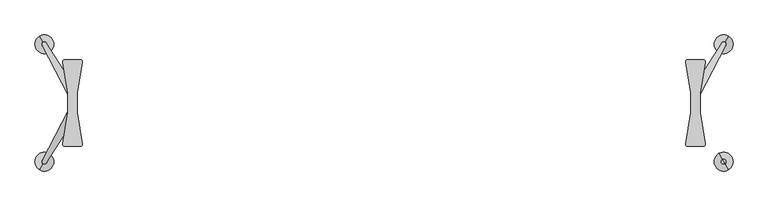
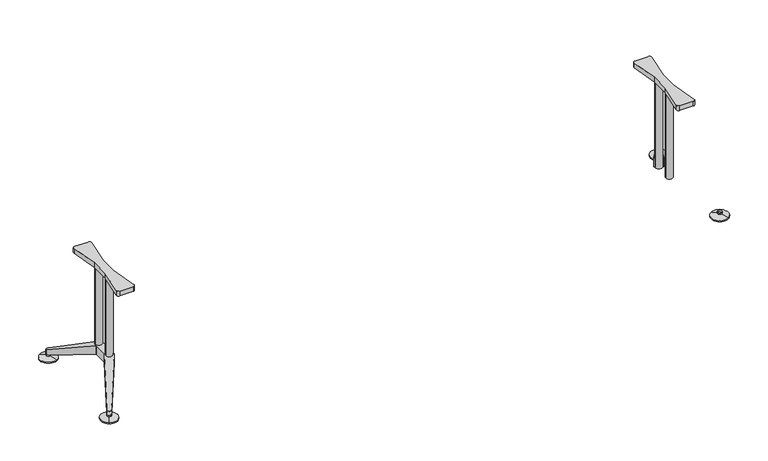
"""IFC4 building model written with IfcOpenShell, lengths in millimetres: furniture geometry, Furniture_Wilkhahn_620-46_Logon Table-Rectangle : Logon 620/46_3900L x 2300W x 730H."""

import ifcopenshell
import ifcopenshell.guid

model = None  # the IFC model being written
_history = None  # IfcOwnerHistory: only IFC2X3 demands one
_inside = {}  # id of a spatial element -> (the spatial element, [elements in it])
_under = {}  # id of a project, library or spatial element -> (it, [spatial elements below it])
_declared = {}  # id of a project -> (the project, [libraries it declares])
_typed = {}  # id of a type object -> (the type object, [elements of that type])
_made_of = {}  # id of a material, layer set ... -> (it, [elements and type objects made of it])


def new_model(schema):
    """Start an empty IFC model of exactly this schema.

    Asked for "IFC4X3", IfcOpenShell would pick the latest addendum, in which some entities
    have other attributes; the version numbers below select the first issue.
    IFC2X3 requires an IfcOwnerHistory on every rooted entity: one is made here for all.
    """
    global model, _history
    if schema == "IFC4X3":
        model = ifcopenshell.file(schema_version=(4, 3, 0, 0))
    else:
        model = ifcopenshell.file(schema=schema)
    _inside.clear()
    _under.clear()
    _declared.clear()
    _typed.clear()
    _made_of.clear()
    _history = None
    if model.schema == "IFC2X3":
        org = make("IfcOrganization", Name="unknown")
        user = make(
            "IfcPersonAndOrganization",
            ThePerson=make("IfcPerson", FamilyName="unknown"),
            TheOrganization=org,
        )
        app = make(
            "IfcApplication",
            ApplicationDeveloper=org,
            Version="unknown",
            ApplicationFullName="unknown",
            ApplicationIdentifier="unknown",
        )
        _history = make(
            "IfcOwnerHistory",
            OwningUser=user,
            OwningApplication=app,
            ChangeAction="ADDED",
            CreationDate=0,
        )
    return model


def make(cls, **values):
    """One entity of the class cls with the attributes given. An attribute that is None is left unset."""
    return model.create_entity(
        cls, **{name: value for name, value in values.items() if value is not None}
    )


def rooted(cls, **values):
    """An entity with a GlobalId (a new one), such as an element, a storey or a relation."""
    return make(cls, GlobalId=ifcopenshell.guid.new(), OwnerHistory=_history, **values)


def si_unit(unit_type, name, prefix=None):
    """IfcSIUnit, for example si_unit("LENGTHUNIT", "METRE", prefix="MILLI")."""
    return make("IfcSIUnit", UnitType=unit_type, Prefix=prefix, Name=name)


def assignment(units):
    """IfcUnitAssignment: the units of a project."""
    return None if units is None else make("IfcUnitAssignment", Units=units)


def point(xyz):
    """IfcCartesianPoint."""
    return None if xyz is None else make("IfcCartesianPoint", Coordinates=xyz)


def direction(xyz):
    """IfcDirection."""
    return None if xyz is None else make("IfcDirection", DirectionRatios=xyz)


def frame(location, z_axis=None, x_axis=None):
    """IfcAxis2Placement3D, a coordinate frame: its origin and axes. An axis left out is left unset."""
    return make(
        "IfcAxis2Placement3D",
        Location=point(location),
        Axis=direction(z_axis),
        RefDirection=direction(x_axis),
    )


def frame_2d(location, x_axis=None):
    """IfcAxis2Placement2D, a coordinate frame in the plane: its origin and x axis."""
    return make(
        "IfcAxis2Placement2D", Location=point(location), RefDirection=direction(x_axis)
    )


def origin():
    """The frame at (0, 0, 0) with its axes left unset."""
    return frame((0.0, 0.0, 0.0))


def place(relative_to, where):
    """IfcLocalPlacement: puts the frame where relative to a parent placement (None: the world)."""
    return make(
        "IfcLocalPlacement", PlacementRelTo=relative_to, RelativePlacement=where
    )


def context(
    kind, dimensions, precision=None, world=None, true_north=None, identifier=None
):
    """IfcGeometricRepresentationContext, for example the 3D "Model" context."""
    return make(
        "IfcGeometricRepresentationContext",
        ContextIdentifier=identifier,
        ContextType=kind,
        CoordinateSpaceDimension=dimensions,
        Precision=precision,
        WorldCoordinateSystem=world,
        TrueNorth=true_north,
    )


def project(units=None, contexts=None):
    """IfcProject with its units and contexts."""
    return rooted(
        "IfcProject",
        Name="project",
        RepresentationContexts=contexts,
        UnitsInContext=assignment(units),
    )


def spatial(cls, under=None, at=None, **own):
    """A site, building, storey or space (cls), placed at a placement, below another one or the project."""
    s = rooted(cls, ObjectPlacement=at, **own)
    if under is not None:
        _under.setdefault(under.id(), (under, []))[1].append(s)
    return s


def polyline(points):
    """IfcPolyline through the points."""
    return make("IfcPolyline", Points=[point(p) for p in points])


def circle_curve(where, radius):
    """IfcCircle in the frame where."""
    return make("IfcCircle", Position=where, Radius=radius)


def ellipse_curve(where, semi_axis1, semi_axis2):
    """IfcEllipse in the frame where."""
    return make(
        "IfcEllipse", Position=where, SemiAxis1=semi_axis1, SemiAxis2=semi_axis2
    )


def trimmed(basis, trim1, trim2, sense, master):
    """IfcTrimmedCurve: the piece of a basis curve between two trims."""
    return make(
        "IfcTrimmedCurve",
        BasisCurve=basis,
        Trim1=trim1,
        Trim2=trim2,
        SenseAgreement=sense,
        MasterRepresentation=master,
    )


def segment(curve, same_sense, transition):
    """IfcCompositeCurveSegment."""
    return make(
        "IfcCompositeCurveSegment",
        Transition=transition,
        SameSense=same_sense,
        ParentCurve=curve,
    )


def composite_curve(segments, self_intersect=None):
    """IfcCompositeCurve: segments joined end to end."""
    return make("IfcCompositeCurve", Segments=segments, SelfIntersect=self_intersect)


def outline(outer, holes=None, kind="AREA"):
    """IfcArbitraryClosedProfileDef: a profile drawn as a closed curve; with holes, ...WithVoids."""
    if holes is None:
        return make("IfcArbitraryClosedProfileDef", ProfileType=kind, OuterCurve=outer)
    return make(
        "IfcArbitraryProfileDefWithVoids",
        ProfileType=kind,
        OuterCurve=outer,
        InnerCurves=holes,
    )


def extrude(swept, where, along, depth):
    """IfcExtrudedAreaSolid: the profile swept, set in the frame where, extruded along a direction by depth."""
    return make(
        "IfcExtrudedAreaSolid",
        SweptArea=swept,
        Position=where,
        ExtrudedDirection=direction(along),
        Depth=depth,
    )


def shape(context_of_items, identifier, shape_type, items):
    """IfcShapeRepresentation: the items that make up one representation, for example the "Body"."""
    return make(
        "IfcShapeRepresentation",
        ContextOfItems=context_of_items,
        RepresentationIdentifier=identifier,
        RepresentationType=shape_type,
        Items=items,
    )


def source(mapping_origin, context_of_items, identifier, shape_type, items):
    """IfcRepresentationMap: a shape defined once, which mapped items show again and again."""
    return make(
        "IfcRepresentationMap",
        MappingOrigin=mapping_origin,
        MappedRepresentation=shape(context_of_items, identifier, shape_type, items),
    )


def transform(
    local_origin,
    x_axis=None,
    y_axis=None,
    z_axis=None,
    scale=None,
    scale2=None,
    scale3=None,
    uniform=True,
):
    """IfcCartesianTransformationOperator3D, or its non-uniform kind. x_axis, y_axis, z_axis: its Axis1, 2, 3."""
    if uniform:
        return make(
            "IfcCartesianTransformationOperator3D",
            Axis1=direction(x_axis),
            Axis2=direction(y_axis),
            LocalOrigin=point(local_origin),
            Scale=scale,
            Axis3=direction(z_axis),
        )
    return make(
        "IfcCartesianTransformationOperator3DnonUniform",
        Axis1=direction(x_axis),
        Axis2=direction(y_axis),
        LocalOrigin=point(local_origin),
        Scale=scale,
        Axis3=direction(z_axis),
        Scale2=scale2,
        Scale3=scale3,
    )


def mapped(mapping_source, mapping_target):
    """IfcMappedItem: shows the shape of a source again, moved by a transform."""
    return make(
        "IfcMappedItem", MappingSource=mapping_source, MappingTarget=mapping_target
    )


def made_of(thing, what):
    """Note that an element or type object is made of a material, layer set ...; save() writes the relation."""
    if what is not None:
        _made_of.setdefault(what.id(), (what, []))[1].append(thing)
    return thing


def element(
    cls,
    number,
    at=None,
    inside=None,
    cuts=None,
    type_object=None,
    material=None,
    context=None,
    identifier="Body",
    shape_type=None,
    held_by="IfcProductDefinitionShape",
    body=None,
    shapes=None,
    **own,
):
    """One element of the class cls, such as IfcWall. Its Tag is "e" and its number.

    at: its placement. inside: the storey or other place that contains it. cuts: it is an
    opening in that element (IfcRelVoidsElement). A single representation is given by context,
    identifier, shape_type and body (its items); several are given by shapes. held_by: the class
    of the entity that holds the representations. save() writes the other relations.
    """
    e = rooted(cls, Tag="e%d" % number, ObjectPlacement=at, **own)
    if body is not None:
        shapes = [shape(context, identifier, shape_type, body)]
    if shapes is not None:
        e.Representation = make(held_by, Representations=shapes)
    if inside is not None:
        _inside.setdefault(inside.id(), (inside, []))[1].append(e)
    if cuts is not None:
        rooted(
            "IfcRelVoidsElement", RelatingBuildingElement=cuts, RelatedOpeningElement=e
        )
    if type_object is not None:
        _typed.setdefault(type_object.id(), (type_object, []))[1].append(e)
    return made_of(e, material)


def aggregate(whole, parts):
    """IfcRelAggregates: a whole, such as a stair, and the parts it consists of."""
    return rooted("IfcRelAggregates", RelatingObject=whole, RelatedObjects=parts)


def save(model, path):
    """Write the relations noted so far, then the file.

    IfcRelAggregates (storeys below a building ...), IfcRelContainedInSpatialStructure (elements
    in a storey), IfcRelDefinesByType, IfcRelAssociatesMaterial and IfcRelDeclares: one each for
    every whole, place, type object, material and project.
    """
    for whole, parts in _under.values():
        aggregate(whole, parts)
    for where, things in _inside.values():
        rooted(
            "IfcRelContainedInSpatialStructure",
            RelatedElements=things,
            RelatingStructure=where,
        )
    for kind, things in _typed.values():
        rooted("IfcRelDefinesByType", RelatedObjects=things, RelatingType=kind)
    for what, things in _made_of.values():
        rooted("IfcRelAssociatesMaterial", RelatedObjects=things, RelatingMaterial=what)
    for by, libraries in _declared.values():
        rooted("IfcRelDeclares", RelatingContext=by, RelatedDefinitions=libraries)
    model.write(path)


def plane_surface(at):
    """IfcPlane: the flat surface through the origin of the frame at, square to its z axis."""
    return make("IfcPlane", Position=at)


def cylinder_surface(at, radius):
    """IfcCylindricalSurface: all points at the distance radius from the z axis of the frame at."""
    return make("IfcCylindricalSurface", Position=at, Radius=radius)


def revolved_surface(curve, axis_point, axis_direction):
    """IfcSurfaceOfRevolution: the curve turned about the line through axis_point along axis_direction."""
    return make(
        "IfcSurfaceOfRevolution",
        SweptCurve=make("IfcArbitraryOpenProfileDef", ProfileType="CURVE", Curve=curve),
        AxisPosition=make("IfcAxis1Placement", Location=point(axis_point), Axis=direction(axis_direction)),
    )


def advanced_brep(points, edges, surfaces, faces):
    """IfcAdvancedBrep: a solid bounded by faces that lie on surfaces and meet in shared edges.

    An edge is (start, end): straight between two places in points (the first is 0);
    or (start, end, curve); or (start, end, curve, False) where it runs against its curve.
    A face is (place in surfaces, loops), or (place, loops, False) where it looks against
    its surface's normal. A loop lists edges by number (the first is 1), with a minus sign
    where the edge is run from its end to its start. The first loop is the outer one.
    """
    corners = [point(p) for p in points]
    vertices = [make("IfcVertexPoint", VertexGeometry=c) for c in corners]
    made = []
    for start, end, *more in edges:
        made.append(
            make(
                "IfcEdgeCurve",
                EdgeStart=vertices[start],
                EdgeEnd=vertices[end],
                EdgeGeometry=more[0] if more else make("IfcPolyline", Points=[corners[start], corners[end]]),
                SameSense=more[1] if len(more) > 1 else True,
            )
        )
    hull = []
    for where, loops, *sense in faces:
        bounds = []
        for j, loop in enumerate(loops):
            ring = [make("IfcOrientedEdge", EdgeElement=made[abs(k) - 1], Orientation=k > 0) for k in loop]
            bounds.append(
                make(
                    "IfcFaceOuterBound" if j == 0 else "IfcFaceBound",
                    Bound=make("IfcEdgeLoop", EdgeList=ring),
                    Orientation=True,
                )
            )
        hull.append(make("IfcAdvancedFace", Bounds=bounds, FaceSurface=surfaces[where], SameSense=sense[0] if sense else True))
    return make("IfcAdvancedBrep", Outer=make("IfcClosedShell", CfsFaces=hull))


def furniture_664180d8(model_context):
    return source(origin(), model_context, "Body", "SolidModel", [
        advanced_brep(
        [(1798.762181, -238.3851898, 0.0), (1773.762181, -281.68646, 0.0), (1823.762181, -195.0839196, 0.0), (1773.762181, -281.68646, 6.0), (1823.762181, -195.0839196, 6.0), (1792.524362, -249.1894093, 17.0), (1805.0, -227.5809704, 17.0), (1792.524362, -249.1894093, 27.0), (1805.0, -227.5809704, 27.0), (1798.762181, -238.3851898, 27.0)],
        [
            (0, 1),
            (1, 2, circle_curve(frame((1798.762181, -238.3851898, 0.0), z_axis=(0.0, 0.0, -1.0), x_axis=(0.49999999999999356, 0.8660254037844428, 0.0)), 50.0)),
            (2, 0),
            (2, 1, circle_curve(frame((1798.762181, -238.3851898, 0.0), z_axis=(0.0, 0.0, -1.0), x_axis=(0.49999999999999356, 0.8660254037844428, 0.0)), 50.0)),
            (1, 3),
            (3, 4, circle_curve(frame((1798.762181, -238.3851898, 6.0), z_axis=(0.0, 0.0, -1.0), x_axis=(0.49999999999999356, 0.8660254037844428, 0.0)), 50.0)),
            (4, 2),
            (4, 3, circle_curve(frame((1798.762181, -238.3851898, 6.0), z_axis=(0.0, 0.0, -1.0), x_axis=(0.49999999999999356, 0.8660254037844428, 0.0)), 50.0)),
            (3, 5),
            (5, 6, circle_curve(frame((1798.762181, -238.3851898, 17.0), z_axis=(0.0, 0.0, -1.0), x_axis=(0.49999999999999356, 0.8660254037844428, 0.0)), 12.475638)),
            (6, 4),
            (6, 5, circle_curve(frame((1798.762181, -238.3851898, 17.0), z_axis=(0.0, 0.0, -1.0), x_axis=(0.49999999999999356, 0.8660254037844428, 0.0)), 12.475638)),
            (5, 7),
            (7, 8, circle_curve(frame((1798.762181, -238.3851898, 27.0), z_axis=(0.0, 0.0, -1.0), x_axis=(0.49999999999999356, 0.8660254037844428, 0.0)), 12.475638)),
            (8, 6),
            (8, 7, circle_curve(frame((1798.762181, -238.3851898, 27.0), z_axis=(0.0, 0.0, -1.0), x_axis=(0.49999999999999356, 0.8660254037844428, 0.0)), 12.475638)),
            (7, 9),
            (9, 8),
        ],
        [
            plane_surface(frame((1798.762181, -238.3851898, 0.0), z_axis=(0.0, 0.0, -1.0), x_axis=(0.49999999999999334, 0.8660254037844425, 0.0))),
            cylinder_surface(frame((1798.762181, -238.3851898, 27.0), z_axis=(0.0, 0.0, -1.0), x_axis=(0.49999999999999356, 0.8660254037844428, 0.0)), 50.0),
            revolved_surface(polyline([(1805.0, -227.5809704, 17.0), (1823.762181, -195.0839196, 6.0)]), (1798.762181, -238.3851898, 27.0), (0.0, 0.0, -1.0)),
            cylinder_surface(frame((1798.762181, -238.3851898, 27.0), z_axis=(0.0, 0.0, -1.0), x_axis=(0.49999999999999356, 0.8660254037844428, 0.0)), 12.475638),
            plane_surface(frame((1798.762181, -238.3851898, 27.0), z_axis=(0.0, 0.0, 1.0), x_axis=(0.49999999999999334, 0.8660254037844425, 0.0))),
        ],
        [
            (0, [[1, 2, 3]]),
            (0, [[-3, 4, -1]]),
            (1, [[5, 6, 7, -2]]),
            (1, [[-7, 8, -5, -4]]),
            (2, [[9, 10, 11, -6]]),
            (2, [[-11, 12, -9, -8]]),
            (3, [[13, 14, 15, -10]]),
            (3, [[-15, 16, -13, -12]]),
            (4, [[17, 18, -14]]),
            (4, [[-18, -17, -16]]),
        ],
    ),
        advanced_brep(
        [(1773.762181, -816.4112311, 0.0), (1798.762181, -859.7125013, 0.0), (1823.762181, -903.0137715, 0.0), (1773.762181, -816.4112311, 6.0), (1823.762181, -903.0137715, 6.0), (1792.524362, -848.9082819, 17.0), (1805.0, -870.5167207, 17.0), (1792.524362, -848.9082819, 27.0), (1805.0, -870.5167207, 27.0), (1798.762181, -859.7125013, 27.0)],
        [
            (0, 1),
            (1, 2),
            (2, 0, circle_curve(frame((1798.762181, -859.7125013, 0.0), z_axis=(0.0, 0.0, -1.0), x_axis=(0.4999999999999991, -0.8660254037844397, 0.0)), 50.0)),
            (0, 2, circle_curve(frame((1798.762181, -859.7125013, 0.0), z_axis=(0.0, 0.0, -1.0), x_axis=(0.4999999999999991, -0.8660254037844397, 0.0)), 50.0)),
            (3, 0),
            (2, 4),
            (4, 3, circle_curve(frame((1798.762181, -859.7125013, 6.0), z_axis=(0.0, 0.0, -1.0), x_axis=(0.4999999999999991, -0.8660254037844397, 0.0)), 50.0)),
            (3, 4, circle_curve(frame((1798.762181, -859.7125013, 6.0), z_axis=(0.0, 0.0, -1.0), x_axis=(0.4999999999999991, -0.8660254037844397, 0.0)), 50.0)),
            (5, 3),
            (4, 6),
            (6, 5, circle_curve(frame((1798.762181, -859.7125013, 17.0), z_axis=(0.0, 0.0, -1.0), x_axis=(0.4999999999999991, -0.8660254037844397, 0.0)), 12.475638)),
            (5, 6, circle_curve(frame((1798.762181, -859.7125013, 17.0), z_axis=(0.0, 0.0, -1.0), x_axis=(0.4999999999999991, -0.8660254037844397, 0.0)), 12.475638)),
            (7, 5),
            (6, 8),
            (8, 7, circle_curve(frame((1798.762181, -859.7125013, 27.0), z_axis=(0.0, 0.0, -1.0), x_axis=(0.4999999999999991, -0.8660254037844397, 0.0)), 12.475638)),
            (7, 8, circle_curve(frame((1798.762181, -859.7125013, 27.0), z_axis=(0.0, 0.0, -1.0), x_axis=(0.4999999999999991, -0.8660254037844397, 0.0)), 12.475638)),
            (9, 7),
            (8, 9),
        ],
        [
            plane_surface(frame((1798.762181, -859.7125013, 0.0), z_axis=(0.0, 0.0, -1.0), x_axis=(0.4999999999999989, -0.8660254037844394, 0.0))),
            cylinder_surface(frame((1798.762181, -859.7125013, 27.0), z_axis=(0.0, 0.0, 1.0), x_axis=(0.4999999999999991, -0.8660254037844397, 0.0)), 50.0),
            revolved_surface(polyline([(1823.762181, -903.0137715, 6.0), (1805.0, -870.5167207, 17.0)]), (1798.762181, -859.7125013, 27.0), (0.0, 0.0, 1.0)),
            cylinder_surface(frame((1798.762181, -859.7125013, 27.0), z_axis=(0.0, 0.0, 1.0), x_axis=(0.4999999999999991, -0.8660254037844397, 0.0)), 12.475638),
            plane_surface(frame((1798.762181, -859.7125013, 27.0), z_axis=(0.0, 0.0, 1.0), x_axis=(0.4999999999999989, -0.8660254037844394, 0.0))),
        ],
        [
            (0, [[1, 2, 3]]),
            (0, [[-2, -1, 4]]),
            (1, [[5, -3, 6, 7]]),
            (1, [[-6, -4, -5, 8]]),
            (2, [[9, -7, 10, 11]]),
            (2, [[-10, -8, -9, 12]]),
            (3, [[13, -11, 14, 15]]),
            (3, [[-14, -12, -13, 16]]),
            (4, [[17, -15, 18]]),
            (4, [[-18, -16, -17]]),
        ],
    ),
        extrude(outline(composite_curve([segment(polyline([(1675.0, -496.0488456), (1675.0, -602.0488456), (1701.7160071, -765.1086133)]), True, "CONTINUOUS"), segment(trimmed(circle_curve(frame_2d((1689.8739001, -767.0488456)), 12.0), [point((1701.7160071, -765.1086133))], [point((1689.8739001, -779.0488456))], False, "CARTESIAN"), True, "CONTINUOUS"), segment(polyline([(1689.8739001, -779.0488456), (1610.1260999, -779.0488456)]), True, "CONTINUOUS"), segment(trimmed(circle_curve(frame_2d((1610.1260999, -767.0488456)), 12.0), [point((1610.1260999, -779.0488456))], [point((1598.2839929, -765.1086133))], False, "CARTESIAN"), True, "CONTINUOUS"), segment(polyline([(1598.2839929, -765.1086133), (1625.0, -602.0488456), (1625.0, -496.0488456), (1598.2839929, -332.9890778)]), True, "CONTINUOUS"), segment(trimmed(circle_curve(frame_2d((1610.1260999, -331.0488456)), 12.0), [point((1598.2839929, -332.9890778))], [point((1610.1260999, -319.0488456))], False, "CARTESIAN"), True, "CONTINUOUS"), segment(polyline([(1610.1260999, -319.0488456), (1689.8739001, -319.0488456)]), True, "CONTINUOUS"), segment(trimmed(circle_curve(frame_2d((1689.8739001, -331.0488456)), 12.0), [point((1689.8739001, -319.0488456))], [point((1701.7160071, -332.9890778))], False, "CARTESIAN"), True, "CONTINUOUS"), segment(polyline([(1701.7160071, -332.9890778), (1675.0, -496.0488456)]), True, "CONTINUOUS")], self_intersect=False)), frame((0.0, 0.0, 675.0), z_axis=(0.0, 0.0, 1.0), x_axis=(1.0, 0.0, 0.0)), (0.0, 0.0, 1.0), 29.0),
        advanced_brep(
        [(1809.8189769, -244.1634947, 56.1717347), (1671.6506351, -508.5488456, 195.0), (1671.6506351, -508.5488456, 140.0), (1803.7925387, -255.6950942, 27.0), (1809.8189769, -244.1634947, 27.0), (1788.2296242, -231.6988761, 27.0), (1781.2561852, -242.6837244, 27.0), (1628.3493649, -483.5488456, 140.0), (1628.3493649, -483.5488456, 195.0), (1788.2296242, -231.6988761, 56.1717347), (1805.0, -227.5809704, 50.6048844), (1805.0, -227.5809704, 27.0)],
        [
            (0, 1),
            (1, 2),
            (2, 3),
            (3, 4),
            (4, 0),
            (5, 6),
            (6, 7),
            (7, 8),
            (8, 9),
            (9, 5),
            (0, 10, ellipse_curve(frame((1798.762181, -238.3851898, 56.4159205), z_axis=(0.21111665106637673, 0.36566476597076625, 0.9064871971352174), x_axis=(0.453243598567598, 0.785040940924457, -0.4222333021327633)), 13.7626191, 12.475638)),
            (10, 9, ellipse_curve(frame((1798.762181, -238.3851898, 56.4159205), z_axis=(0.21111665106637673, 0.36566476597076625, 0.9064871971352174), x_axis=(0.453243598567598, 0.785040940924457, -0.4222333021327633)), 13.7626191, 12.475638)),
            (8, 1),
            (5, 11, circle_curve(frame((1798.762181, -238.3851898, 27.0), z_axis=(0.0, 0.0, -1.0), x_axis=(0.8660254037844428, -0.49999999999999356, 0.0)), 12.475638)),
            (11, 4, circle_curve(frame((1798.762181, -238.3851898, 27.0), z_axis=(0.0, 0.0, -1.0), x_axis=(0.8660254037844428, -0.49999999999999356, 0.0)), 12.475638)),
            (3, 6),
            (2, 7),
        ],
        [
            plane_surface(frame((1671.6506351, -508.5488456, 195.0), z_axis=(0.8862709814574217, -0.46316708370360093, 0.0), x_axis=(0.0, 0.0, -1.0))),
            plane_surface(frame((1788.2296242, -231.6988761, 195.0), z_axis=(-0.844249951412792, 0.5359496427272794, 0.0), x_axis=(0.0, 0.0, -1.0))),
            plane_surface(frame((1671.6506351, -508.5488456, 195.0), z_axis=(0.21111665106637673, 0.36566476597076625, 0.9064871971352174), x_axis=(-0.8660254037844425, 0.49999999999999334, 0.0))),
            plane_surface(frame((1826.6506351, -240.0809704, 27.0), z_axis=(0.0, 0.0, -1.0), x_axis=(-0.8660254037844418, 0.4999999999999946, 0.0))),
            plane_surface(frame((1814.1749971, -261.6894093, 27.0), z_axis=(-0.1842613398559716, -0.3191500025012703, -0.9296187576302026), x_axis=(-0.8660254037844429, 0.49999999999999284, 0.0))),
            cylinder_surface(frame((1798.762181, -238.3851898, 0.0), z_axis=(0.0, 0.0, -1.0), x_axis=(0.8660254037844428, -0.49999999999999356, 0.0)), 12.475638),
            plane_surface(frame((1671.6506351, -508.5488456, 140.0), z_axis=(-0.4999999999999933, -0.8660254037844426, 0.0), x_axis=(-0.8660254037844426, 0.4999999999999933, 0.0))),
        ],
        [
            (0, [[1, 2, 3, 4, 5]]),
            (1, [[6, 7, 8, 9, 10]]),
            (2, [[-1, 11, 12, -9, 13]]),
            (3, [[-6, 14, 15, -4, 16]]),
            (4, [[-7, -16, -3, 17]]),
            (5, [[-12, -11, -5, -15, -14, -10]]),
            (6, [[-8, -17, -2, -13]]),
        ],
    ),
        extrude(outline(composite_curve([segment(trimmed(circle_curve(frame_2d((1650.0, -496.0488456)), 20.0), [point((1630.0, -496.0488456))], [point((1670.0, -496.0488456))], False, "CARTESIAN"), True, "CONTINUOUS"), segment(trimmed(circle_curve(frame_2d((1650.0, -496.0488456)), 20.0), [point((1670.0, -496.0488456))], [point((1630.0, -496.0488456))], False, "CARTESIAN"), True, "CONTINUOUS")], self_intersect=False)), frame((0.0, 0.0, 140.0), z_axis=(0.0, 0.0, 1.0), x_axis=(1.0, 0.0, 0.0)), (0.0, 0.0, 1.0), 535.0),
        extrude(outline(composite_curve([segment(trimmed(circle_curve(frame_2d((1650.0, -602.0488456)), 20.0), [point((1630.0, -602.0488456))], [point((1670.0, -602.0488456))], False, "CARTESIAN"), True, "CONTINUOUS"), segment(trimmed(circle_curve(frame_2d((1650.0, -602.0488456)), 20.0), [point((1670.0, -602.0488456))], [point((1630.0, -602.0488456))], False, "CARTESIAN"), True, "CONTINUOUS")], self_intersect=False)), frame((0.0, 0.0, 140.0), z_axis=(0.0, 0.0, 1.0), x_axis=(1.0, 0.0, 0.0)), (0.0, 0.0, 1.0), 535.0),
        extrude(outline(polyline([(-1671.6506351, -589.5488456), (-1671.6506351, -508.5488456), (-1628.3493649, -483.5488456), (-1628.3493649, -614.5488456), (-1671.6506351, -589.5488456)])), frame((0.0, 0.0, 140.0), z_axis=(0.0, 0.0, 1.0), x_axis=(1.0, 0.0, 0.0)), (0.0, 0.0, 1.0), 55.0),
        advanced_brep(
        [(-1628.3493649, -614.5488456, 195.0), (-1671.6506351, -589.5488456, 195.0), (-1809.8189769, -853.9341964, 56.1717347), (-1805.0, -870.5167207, 50.6048844), (-1788.2296242, -866.398815, 56.1717347), (-1803.7925387, -842.402597, 27.0), (-1781.2561852, -855.4139667, 27.0), (-1788.2296242, -866.398815, 27.0), (-1805.0, -870.5167207, 27.0), (-1809.8189769, -853.9341964, 27.0), (-1671.6506351, -589.5488456, 140.0), (-1628.3493649, -614.5488456, 140.0)],
        [
            (0, 1),
            (1, 2),
            (2, 3, ellipse_curve(frame((-1798.762181, -859.7125013, 56.4159205), z_axis=(-0.21111665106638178, -0.36566476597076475, 0.906487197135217), x_axis=(-0.45324359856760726, -0.7850409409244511, -0.4222333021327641)), 13.7626191, 12.475638)),
            (3, 4, ellipse_curve(frame((-1798.762181, -859.7125013, 56.4159205), z_axis=(-0.21111665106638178, -0.36566476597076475, 0.906487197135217), x_axis=(-0.45324359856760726, -0.7850409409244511, -0.4222333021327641)), 13.7626191, 12.475638)),
            (4, 0),
            (5, 6),
            (6, 7),
            (7, 8, circle_curve(frame((-1798.762181, -859.7125013, 27.0), z_axis=(0.0, 0.0, -1.0), x_axis=(-0.8660254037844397, 0.4999999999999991, 0.0)), 12.475638)),
            (8, 9, circle_curve(frame((-1798.762181, -859.7125013, 27.0), z_axis=(0.0, 0.0, -1.0), x_axis=(-0.8660254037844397, 0.4999999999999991, 0.0)), 12.475638)),
            (9, 5),
            (10, 11),
            (11, 6),
            (5, 10),
            (0, 11),
            (10, 1),
            (9, 2),
            (4, 7),
        ],
        [
            plane_surface(frame((-1826.6506351, -858.0167207, 50.6048844), z_axis=(-0.21111665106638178, -0.36566476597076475, 0.906487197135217), x_axis=(0.8660254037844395, -0.49999999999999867, 0.0))),
            plane_surface(frame((-1814.1749971, -836.4082819, 27.0), z_axis=(0.0, 0.0, -1.0), x_axis=(0.8660254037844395, -0.49999999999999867, 0.0))),
            plane_surface(frame((-1671.6506351, -589.5488456, 140.0), z_axis=(0.18426133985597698, 0.3191500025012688, -0.9296187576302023), x_axis=(0.866025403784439, -0.4999999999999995, 0.0))),
            plane_surface(frame((-1671.6506351, -589.5488456, 195.0), z_axis=(0.4999999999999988, 0.8660254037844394, 0.0), x_axis=(0.8660254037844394, -0.4999999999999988, 0.0))),
            plane_surface(frame((-1809.8189769, -853.9341964, 195.0), z_axis=(-0.8862709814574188, 0.4631670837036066, 0.0), x_axis=(0.0, 0.0, -1.0))),
            plane_surface(frame((-1628.3493649, -614.5488456, 195.0), z_axis=(0.8442499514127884, -0.5359496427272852, 0.0), x_axis=(0.0, 0.0, -1.0))),
            cylinder_surface(frame((-1798.762181, -859.7125013, 0.0), z_axis=(0.0, 0.0, -1.0), x_axis=(-0.8660254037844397, 0.4999999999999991, 0.0)), 12.475638),
        ],
        [
            (0, [[1, 2, 3, 4, 5]]),
            (1, [[6, 7, 8, 9, 10]]),
            (2, [[11, 12, -6, 13]]),
            (3, [[-1, 14, -11, 15]]),
            (4, [[16, -2, -15, -13, -10]]),
            (5, [[17, -7, -12, -14, -5]]),
            (6, [[-16, -9, -8, -17, -4, -3]]),
        ],
    ),
        advanced_brep(
        [(-1798.762181, -238.3851898, 0.0), (-1823.762181, -195.0839196, 0.0), (-1773.762181, -281.68646, 0.0), (-1823.762181, -195.0839196, 6.0), (-1773.762181, -281.68646, 6.0), (-1805.0, -227.5809704, 17.0), (-1792.524362, -249.1894093, 17.0), (-1805.0, -227.5809704, 27.0), (-1792.524362, -249.1894093, 27.0), (-1798.762181, -238.3851898, 27.0)],
        [
            (0, 1),
            (1, 2, circle_curve(frame((-1798.762181, -238.3851898, 0.0), z_axis=(0.0, 0.0, -1.0), x_axis=(-0.49999999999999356, 0.8660254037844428, 0.0)), 50.0)),
            (2, 0),
            (2, 1, circle_curve(frame((-1798.762181, -238.3851898, 0.0), z_axis=(0.0, 0.0, -1.0), x_axis=(-0.49999999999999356, 0.8660254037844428, 0.0)), 50.0)),
            (1, 3),
            (3, 4, circle_curve(frame((-1798.762181, -238.3851898, 6.0), z_axis=(0.0, 0.0, -1.0), x_axis=(-0.49999999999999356, 0.8660254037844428, 0.0)), 50.0)),
            (4, 2),
            (4, 3, circle_curve(frame((-1798.762181, -238.3851898, 6.0), z_axis=(0.0, 0.0, -1.0), x_axis=(-0.49999999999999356, 0.8660254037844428, 0.0)), 50.0)),
            (3, 5),
            (5, 6, circle_curve(frame((-1798.762181, -238.3851898, 17.0), z_axis=(0.0, 0.0, -1.0), x_axis=(-0.49999999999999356, 0.8660254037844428, 0.0)), 12.475638)),
            (6, 4),
            (6, 5, circle_curve(frame((-1798.762181, -238.3851898, 17.0), z_axis=(0.0, 0.0, -1.0), x_axis=(-0.49999999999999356, 0.8660254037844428, 0.0)), 12.475638)),
            (5, 7),
            (7, 8, circle_curve(frame((-1798.762181, -238.3851898, 27.0), z_axis=(0.0, 0.0, -1.0), x_axis=(-0.49999999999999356, 0.8660254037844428, 0.0)), 12.475638)),
            (8, 6),
            (8, 7, circle_curve(frame((-1798.762181, -238.3851898, 27.0), z_axis=(0.0, 0.0, -1.0), x_axis=(-0.49999999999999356, 0.8660254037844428, 0.0)), 12.475638)),
            (7, 9),
            (9, 8),
        ],
        [
            plane_surface(frame((-1798.762181, -238.3851898, 0.0), z_axis=(0.0, 0.0, -1.0), x_axis=(-0.49999999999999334, 0.8660254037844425, 0.0))),
            cylinder_surface(frame((-1798.762181, -238.3851898, 27.0), z_axis=(0.0, 0.0, -1.0), x_axis=(-0.49999999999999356, 0.8660254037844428, 0.0)), 50.0),
            revolved_surface(polyline([(-1805.0, -227.5809704, 17.0), (-1823.762181, -195.0839196, 6.0)]), (-1798.762181, -238.3851898, 27.0), (0.0, 0.0, -1.0)),
            cylinder_surface(frame((-1798.762181, -238.3851898, 27.0), z_axis=(0.0, 0.0, -1.0), x_axis=(-0.49999999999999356, 0.8660254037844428, 0.0)), 12.475638),
            plane_surface(frame((-1798.762181, -238.3851898, 27.0), z_axis=(0.0, 0.0, 1.0), x_axis=(-0.49999999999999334, 0.8660254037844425, 0.0))),
        ],
        [
            (0, [[1, 2, 3]]),
            (0, [[-3, 4, -1]]),
            (1, [[-2, 5, 6, 7]]),
            (1, [[-4, -7, 8, -5]]),
            (2, [[-6, 9, 10, 11]]),
            (2, [[-8, -11, 12, -9]]),
            (3, [[-10, 13, 14, 15]]),
            (3, [[-12, -15, 16, -13]]),
            (4, [[-14, 17, 18]]),
            (4, [[-16, -18, -17]]),
        ],
    ),
        advanced_brep(
        [(-1773.762181, -816.4112311, 0.0), (-1823.762181, -903.0137715, 0.0), (-1798.762181, -859.7125013, 0.0), (-1773.762181, -816.4112311, 6.0), (-1823.762181, -903.0137715, 6.0), (-1792.524362, -848.9082819, 17.0), (-1805.0, -870.5167207, 17.0), (-1792.524362, -848.9082819, 27.0), (-1805.0, -870.5167207, 27.0), (-1798.762181, -859.7125013, 27.0)],
        [
            (0, 1, circle_curve(frame((-1798.762181, -859.7125013, 0.0), z_axis=(0.0, 0.0, -1.0), x_axis=(-0.4999999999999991, -0.8660254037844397, 0.0)), 50.0)),
            (1, 2),
            (2, 0),
            (1, 0, circle_curve(frame((-1798.762181, -859.7125013, 0.0), z_axis=(0.0, 0.0, -1.0), x_axis=(-0.4999999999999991, -0.8660254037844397, 0.0)), 50.0)),
            (3, 4, circle_curve(frame((-1798.762181, -859.7125013, 6.0), z_axis=(0.0, 0.0, -1.0), x_axis=(-0.4999999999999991, -0.8660254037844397, 0.0)), 50.0)),
            (4, 1),
            (0, 3),
            (4, 3, circle_curve(frame((-1798.762181, -859.7125013, 6.0), z_axis=(0.0, 0.0, -1.0), x_axis=(-0.4999999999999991, -0.8660254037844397, 0.0)), 50.0)),
            (5, 6, circle_curve(frame((-1798.762181, -859.7125013, 17.0), z_axis=(0.0, 0.0, -1.0), x_axis=(-0.4999999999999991, -0.8660254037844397, 0.0)), 12.475638)),
            (6, 4),
            (3, 5),
            (6, 5, circle_curve(frame((-1798.762181, -859.7125013, 17.0), z_axis=(0.0, 0.0, -1.0), x_axis=(-0.4999999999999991, -0.8660254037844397, 0.0)), 12.475638)),
            (7, 8, circle_curve(frame((-1798.762181, -859.7125013, 27.0), z_axis=(0.0, 0.0, -1.0), x_axis=(-0.4999999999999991, -0.8660254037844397, 0.0)), 12.475638)),
            (8, 6),
            (5, 7),
            (8, 7, circle_curve(frame((-1798.762181, -859.7125013, 27.0), z_axis=(0.0, 0.0, -1.0), x_axis=(-0.4999999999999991, -0.8660254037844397, 0.0)), 12.475638)),
            (9, 8),
            (7, 9),
        ],
        [
            plane_surface(frame((-1798.762181, -859.7125013, 0.0), z_axis=(0.0, 0.0, -1.0), x_axis=(-0.4999999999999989, -0.8660254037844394, 0.0))),
            cylinder_surface(frame((-1798.762181, -859.7125013, 27.0), z_axis=(0.0, 0.0, 1.0), x_axis=(-0.4999999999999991, -0.8660254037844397, 0.0)), 50.0),
            revolved_surface(polyline([(-1823.762181, -903.0137715, 6.0), (-1805.0, -870.5167207, 17.0)]), (-1798.762181, -859.7125013, 27.0), (0.0, 0.0, 1.0)),
            cylinder_surface(frame((-1798.762181, -859.7125013, 27.0), z_axis=(0.0, 0.0, 1.0), x_axis=(-0.4999999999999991, -0.8660254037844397, 0.0)), 12.475638),
            plane_surface(frame((-1798.762181, -859.7125013, 27.0), z_axis=(0.0, 0.0, 1.0), x_axis=(-0.4999999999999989, -0.8660254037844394, 0.0))),
        ],
        [
            (0, [[1, 2, 3]]),
            (0, [[4, -3, -2]]),
            (1, [[5, 6, -1, 7]]),
            (1, [[8, -7, -4, -6]]),
            (2, [[9, 10, -5, 11]]),
            (2, [[12, -11, -8, -10]]),
            (3, [[13, 14, -9, 15]]),
            (3, [[16, -15, -12, -14]]),
            (4, [[17, -13, 18]]),
            (4, [[-18, -16, -17]]),
        ],
    ),
        extrude(outline(composite_curve([segment(polyline([(-1675.0, -496.0488456), (-1701.7160071, -332.9890778)]), True, "CONTINUOUS"), segment(trimmed(circle_curve(frame_2d((-1689.8739001, -331.0488456)), 12.0), [point((-1701.7160071, -332.9890778))], [point((-1689.8739001, -319.0488456))], False, "CARTESIAN"), True, "CONTINUOUS"), segment(polyline([(-1689.8739001, -319.0488456), (-1610.1260999, -319.0488456)]), True, "CONTINUOUS"), segment(trimmed(circle_curve(frame_2d((-1610.1260999, -331.0488456)), 12.0), [point((-1610.1260999, -319.0488456))], [point((-1598.2839929, -332.9890778))], False, "CARTESIAN"), True, "CONTINUOUS"), segment(polyline([(-1598.2839929, -332.9890778), (-1625.0, -496.0488456), (-1625.0, -602.0488456), (-1598.2839929, -765.1086133)]), True, "CONTINUOUS"), segment(trimmed(circle_curve(frame_2d((-1610.1260999, -767.0488456)), 12.0), [point((-1598.2839929, -765.1086133))], [point((-1610.1260999, -779.0488456))], False, "CARTESIAN"), True, "CONTINUOUS"), segment(polyline([(-1610.1260999, -779.0488456), (-1689.8739001, -779.0488456)]), True, "CONTINUOUS"), segment(trimmed(circle_curve(frame_2d((-1689.8739001, -767.0488456)), 12.0), [point((-1689.8739001, -779.0488456))], [point((-1701.7160071, -765.1086133))], False, "CARTESIAN"), True, "CONTINUOUS"), segment(polyline([(-1701.7160071, -765.1086133), (-1675.0, -602.0488456), (-1675.0, -496.0488456)]), True, "CONTINUOUS")], self_intersect=False)), frame((0.0, 0.0, 675.0), z_axis=(0.0, 0.0, 1.0), x_axis=(1.0, 0.0, 0.0)), (0.0, 0.0, 1.0), 29.0),
        advanced_brep(
        [(-1809.8189769, -244.1634947, 56.1717347), (-1809.8189769, -244.1634947, 27.0), (-1803.7925387, -255.6950942, 27.0), (-1671.6506351, -508.5488456, 140.0), (-1671.6506351, -508.5488456, 195.0), (-1788.2296242, -231.6988761, 27.0), (-1788.2296242, -231.6988761, 56.1717347), (-1628.3493649, -483.5488456, 195.0), (-1628.3493649, -483.5488456, 140.0), (-1781.2561852, -242.6837244, 27.0), (-1805.0, -227.5809704, 50.6048844), (-1805.0, -227.5809704, 27.0)],
        [
            (0, 1),
            (1, 2),
            (2, 3),
            (3, 4),
            (4, 0),
            (5, 6),
            (6, 7),
            (7, 8),
            (8, 9),
            (9, 5),
            (4, 7),
            (6, 10, ellipse_curve(frame((-1798.762181, -238.3851898, 56.4159205), z_axis=(-0.2111166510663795, 0.36566476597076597, 0.9064871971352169), x_axis=(-0.4532435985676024, 0.7850409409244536, -0.4222333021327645)), 13.7626191, 12.475638)),
            (10, 0, ellipse_curve(frame((-1798.762181, -238.3851898, 56.4159205), z_axis=(-0.2111166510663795, 0.36566476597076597, 0.9064871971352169), x_axis=(-0.4532435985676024, 0.7850409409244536, -0.4222333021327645)), 13.7626191, 12.475638)),
            (9, 2),
            (1, 11, circle_curve(frame((-1798.762181, -238.3851898, 27.0), z_axis=(0.0, 0.0, -1.0), x_axis=(-0.8660254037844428, -0.49999999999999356, 0.0)), 12.475638)),
            (11, 5, circle_curve(frame((-1798.762181, -238.3851898, 27.0), z_axis=(0.0, 0.0, -1.0), x_axis=(-0.8660254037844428, -0.49999999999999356, 0.0)), 12.475638)),
            (8, 3),
        ],
        [
            plane_surface(frame((-1671.6506351, -508.5488456, 195.0), z_axis=(-0.8862709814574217, -0.46316708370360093, 0.0), x_axis=(0.0, 0.0, -1.0))),
            plane_surface(frame((-1788.2296242, -231.6988761, 195.0), z_axis=(0.844249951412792, 0.5359496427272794, 0.0), x_axis=(0.0, 0.0, -1.0))),
            plane_surface(frame((-1671.6506351, -508.5488456, 195.0), z_axis=(-0.2111166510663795, 0.36566476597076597, 0.9064871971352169), x_axis=(0.8660254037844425, 0.49999999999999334, 0.0))),
            plane_surface(frame((-1826.6506351, -240.0809704, 27.0), z_axis=(0.0, 0.0, -1.0), x_axis=(0.8660254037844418, 0.4999999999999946, 0.0))),
            plane_surface(frame((-1814.1749971, -261.6894093, 27.0), z_axis=(0.18426133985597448, -0.3191500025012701, -0.9296187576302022), x_axis=(0.8660254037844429, 0.49999999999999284, 0.0))),
            cylinder_surface(frame((-1798.762181, -238.3851898, 0.0), z_axis=(0.0, 0.0, -1.0), x_axis=(-0.8660254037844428, -0.49999999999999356, 0.0)), 12.475638),
            plane_surface(frame((-1671.6506351, -508.5488456, 140.0), z_axis=(0.4999999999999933, -0.8660254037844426, 0.0), x_axis=(0.8660254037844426, 0.4999999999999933, 0.0))),
        ],
        [
            (0, [[1, 2, 3, 4, 5]]),
            (1, [[6, 7, 8, 9, 10]]),
            (2, [[11, -7, 12, 13, -5]]),
            (3, [[14, -2, 15, 16, -10]]),
            (4, [[17, -3, -14, -9]]),
            (5, [[-6, -16, -15, -1, -13, -12]]),
            (6, [[-11, -4, -17, -8]]),
        ],
    ),
        extrude(outline(composite_curve([segment(trimmed(circle_curve(frame_2d((-1650.0, -496.0488456)), 20.0), [point((-1630.0, -496.0488456))], [point((-1670.0, -496.0488456))], False, "CARTESIAN"), True, "CONTINUOUS"), segment(trimmed(circle_curve(frame_2d((-1650.0, -496.0488456)), 20.0), [point((-1670.0, -496.0488456))], [point((-1630.0, -496.0488456))], False, "CARTESIAN"), True, "CONTINUOUS")], self_intersect=False)), frame((0.0, 0.0, 140.0), z_axis=(0.0, 0.0, 1.0), x_axis=(1.0, 0.0, 0.0)), (0.0, 0.0, 1.0), 535.0),
        extrude(outline(composite_curve([segment(trimmed(circle_curve(frame_2d((-1650.0, -602.0488456)), 20.0), [point((-1630.0, -602.0488456))], [point((-1670.0, -602.0488456))], False, "CARTESIAN"), True, "CONTINUOUS"), segment(trimmed(circle_curve(frame_2d((-1650.0, -602.0488456)), 20.0), [point((-1670.0, -602.0488456))], [point((-1630.0, -602.0488456))], False, "CARTESIAN"), True, "CONTINUOUS")], self_intersect=False)), frame((0.0, 0.0, 140.0), z_axis=(0.0, 0.0, 1.0), x_axis=(1.0, 0.0, 0.0)), (0.0, 0.0, 1.0), 535.0),
    ])


if __name__ == "__main__":
    model = new_model("IFC4")
    model_context = context("Model", 3, world=origin())
    ifc_project = project(units=[si_unit("LENGTHUNIT", "METRE", prefix="MILLI")], contexts=[model_context])
    site = spatial("IfcSite", under=ifc_project)
    building = spatial("IfcBuilding", under=site)
    placement = place(None, origin())
    furniture_shape = furniture_664180d8(model_context)
    element("IfcFurniture", 1, ObjectType="Furniture_Wilkhahn_620-46_Logon Table-Rectangle : Logon 620/46_3900L x 2300W x 730H", at=placement, inside=building, context=model_context, shape_type="MappedRepresentation", body=[
        mapped(furniture_shape, transform((0.0, 0.0, 0.0), x_axis=(1.0, 0.0, 0.0), y_axis=(0.0, 1.0, 0.0), z_axis=(0.0, 0.0, 1.0))),
    ])
    save(model, "model.ifc")
